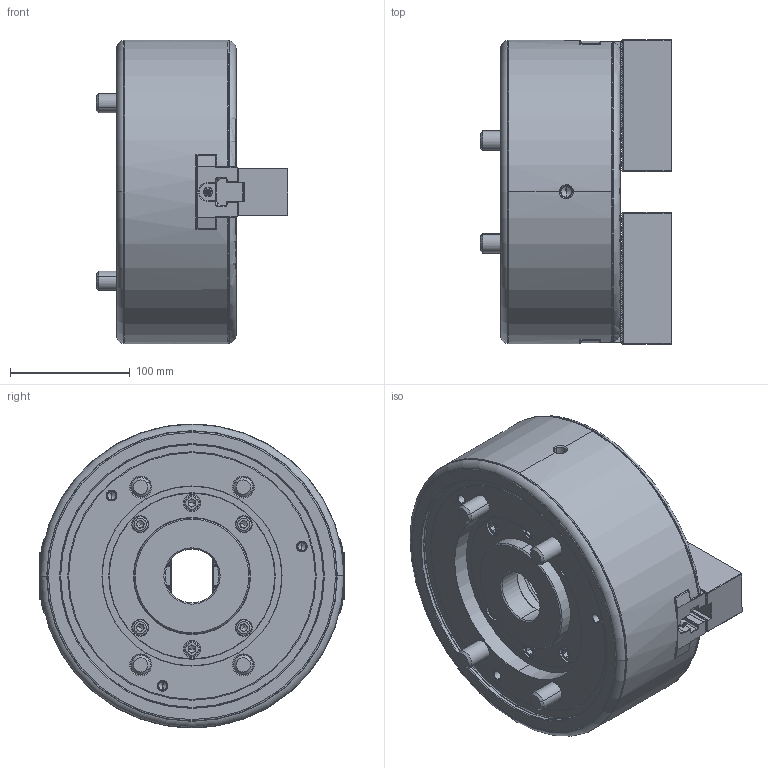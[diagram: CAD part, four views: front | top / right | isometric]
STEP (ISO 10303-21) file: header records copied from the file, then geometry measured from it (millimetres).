
FILE_DESCRIPTION (( 'STEP AP203' ), '1' );
FILE_NAME ('DEV-BRT10-HUL.STEP', '2024-03-12T08:25:44', ( '' ), ( '' ), 'SwSTEP 2.0', 'SolidWorks 2022', '' );
FILE_SCHEMA (( 'CONFIG_CONTROL_DESIGN' ));
Length unit declared in the file: millimetre
Products named in the file (9): Bアナツキ M16×100・M16×120_M16×100-ﾃﾞﾌｫﾙﾄ; BR10-Nishi05 Tナット_61P417262-1 B-210 Tﾅｯﾄ-ﾃﾞﾌｫﾙﾄ; 61P806167-0(BBT210) 61P367863-0(BB210) カバー_BBT210-ﾃﾞﾌｫﾙﾄ; Part3^DEV-BRT10-クミタテ; DEV-BRT10-HUL; BR10-Nishi02 ドローナット_ﾃﾞﾌｫﾙﾄ(外観用); 61P848284-0(SJ10B1) 61P314663-3(SJ10A1T) ソフトジョー_]SJ10A1T-ﾃﾞﾌｫﾙﾄ-Design; Bアナツキ M12×30; Bアナツキボタン M6×10_デフォルト
Assembly tree (19 placements, depth 2):
  DEV-BRT10-HUL
    BR10-Nishi02 ドローナット_ﾃﾞﾌｫﾙﾄ(外観用)
    61P848284-0(SJ10B1) 61P314663-3(SJ10A1T) ソフトジョー_]SJ10A1T-ﾃﾞﾌｫﾙﾄ-Design  x2
    BR10-Nishi05 Tナット_61P417262-1 B-210 Tﾅｯﾄ-ﾃﾞﾌｫﾙﾄ  x2
    61P806167-0(BBT210) 61P367863-0(BB210) カバー_BBT210-ﾃﾞﾌｫﾙﾄ
    Bアナツキ M12×30  x4
    Bアナツキボタン M6×10_デフォルト  x4
    Bアナツキ M16×100・M16×120_M16×100-ﾃﾞﾌｫﾙﾄ  x4
    Part3^DEV-BRT10-クミタテ
Bounding box: 160.2 x 254.24 x 254 mm (x, y, z)
Volume: 4575844.7 mm3; surface area: 428588.1 mm2
Topology: 19 solids, 23 shells, 3262 faces, 8845 edges, 5694 vertices
Faces by surface type: plane 2400, cylinder 377, cone 300, bspline 98, torus 77, sphere 10
Entity records: 82903 total; most frequent: CARTESIAN_POINT 18758, ORIENTED_EDGE 13516, DIRECTION 12313, EDGE_CURVE 6758, VECTOR 5355, LINE 5355, VERTEX_POINT 4391, AXIS2_PLACEMENT_3D 3479
